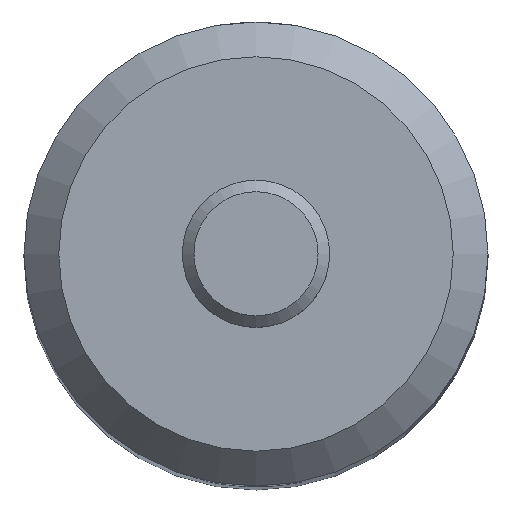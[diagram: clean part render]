
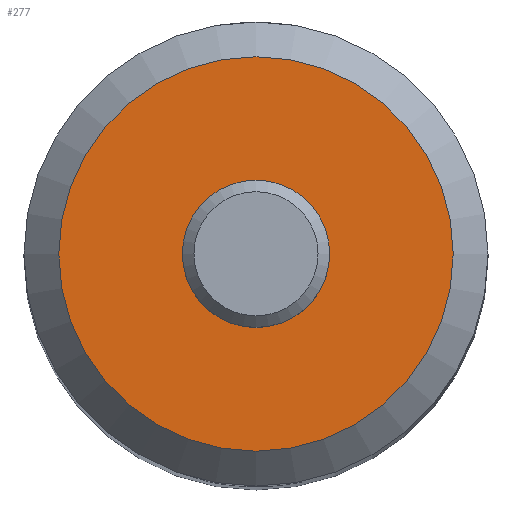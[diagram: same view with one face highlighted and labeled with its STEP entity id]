
A CAD part, top view. The second image highlights one B-rep face of the part: STEP entity #277.
In plain terms, the highlighted planar face has unit normal (0, 0, 1).
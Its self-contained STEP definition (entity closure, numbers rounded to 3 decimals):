
#73=CARTESIAN_POINT('',(8.5,0.,100.0));
#74=VERTEX_POINT('',#73);
#75=CARTESIAN_POINT('',(0.0,0.0,100.0));
#76=DIRECTION('',(0.0,0.0,-1.0));
#77=DIRECTION('',(-1.0,0.0,0.0));
#78=AXIS2_PLACEMENT_3D('',#75,#76,#77);
#79=CIRCLE('',#78,8.5);
#80=EDGE_CURVE('',#74,#74,#79,.T.);
#258=CARTESIAN_POINT('',(0.0,0.0,100.0));
#259=DIRECTION('',(0.0,0.0,1.0));
#260=DIRECTION('',(1.0,0.0,0.0));
#261=AXIS2_PLACEMENT_3D('',#258,#259,#260);
#262=PLANE('',#261);
#263=ORIENTED_EDGE('',*,*,#80,.F.);
#264=EDGE_LOOP('',(#263));
#265=FACE_OUTER_BOUND('',#264,.T.);
#266=CARTESIAN_POINT('',(2.5,0.,100.0));
#267=VERTEX_POINT('',#266);
#268=CARTESIAN_POINT('',(0.0,0.0,100.0));
#269=DIRECTION('',(0.0,0.0,1.0));
#270=DIRECTION('',(-1.0,0.0,0.0));
#271=AXIS2_PLACEMENT_3D('',#268,#269,#270);
#272=CIRCLE('',#271,2.5);
#273=EDGE_CURVE('',#267,#267,#272,.T.);
#274=ORIENTED_EDGE('',*,*,#273,.F.);
#275=EDGE_LOOP('',(#274));
#276=FACE_BOUND('',#275,.T.);
#277=ADVANCED_FACE('',(#265,#276),#262,.T.);
